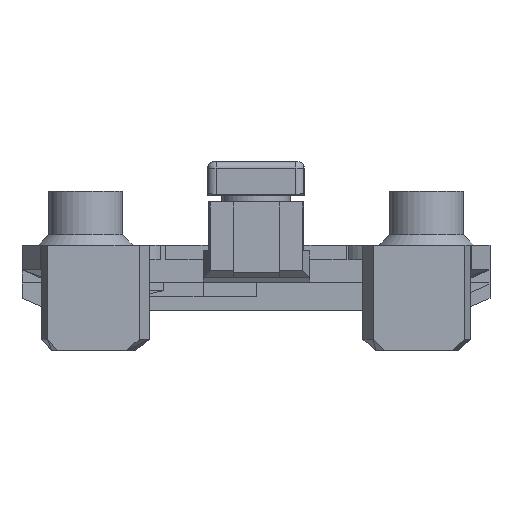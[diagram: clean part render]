
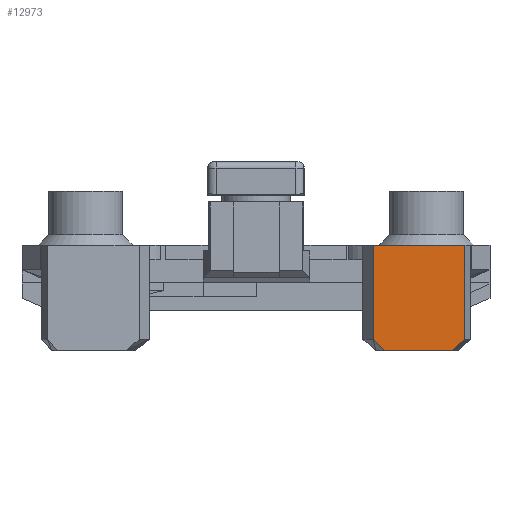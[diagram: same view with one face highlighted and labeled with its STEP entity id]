
A CAD part, left-side view. The second image highlights one B-rep face of the part: STEP entity #12973.
In plain terms, the highlighted planar face has unit normal (-1, 0, 0).
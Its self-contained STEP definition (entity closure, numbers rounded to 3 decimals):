
#764 = PLANE('',#765);
#765 = AXIS2_PLACEMENT_3D('',#766,#767,#768);
#766 = CARTESIAN_POINT('',(-13.263,0.004,7.4));
#767 = DIRECTION('',(0.,0.,1.));
#768 = DIRECTION('',(1.,0.,-0.));
#5528 = PLANE('',#5529);
#5529 = AXIS2_PLACEMENT_3D('',#5530,#5531,#5532);
#5530 = CARTESIAN_POINT('',(-18.527,-8.261,6.4));
#5531 = DIRECTION('',(-0.56,0.829,0.));
#5532 = DIRECTION('',(0.829,0.56,-0.));
#5673 = VERTEX_POINT('',#5674);
#5674 = CARTESIAN_POINT('',(-18.527,-8.261,7.4));
#5695 = EDGE_CURVE('',#5696,#5673,#5698,.T.);
#5696 = VERTEX_POINT('',#5697);
#5697 = CARTESIAN_POINT('',(-18.527,-14.707,7.4));
#5698 = SURFACE_CURVE('',#5699,(#5703,#5710),.PCURVE_S1.);
#5699 = LINE('',#5700,#5701);
#5700 = CARTESIAN_POINT('',(-18.527,-19.765,7.4));
#5701 = VECTOR('',#5702,1.);
#5702 = DIRECTION('',(0.,1.,0.));
#5703 = PCURVE('',#764,#5704);
#5704 = DEFINITIONAL_REPRESENTATION('',(#5705),#5709);
#5705 = LINE('',#5706,#5707);
#5706 = CARTESIAN_POINT('',(-5.264,-19.77));
#5707 = VECTOR('',#5708,1.);
#5708 = DIRECTION('',(0.,1.));
#5709 = ( GEOMETRIC_REPRESENTATION_CONTEXT(2) 
PARAMETRIC_REPRESENTATION_CONTEXT() REPRESENTATION_CONTEXT('2D SPACE',''
  ) );
#5710 = PCURVE('',#5711,#5716);
#5711 = PLANE('',#5712);
#5712 = AXIS2_PLACEMENT_3D('',#5713,#5714,#5715);
#5713 = CARTESIAN_POINT('',(-18.527,-14.707,6.4));
#5714 = DIRECTION('',(-1.,0.,0.));
#5715 = DIRECTION('',(0.,1.,0.));
#5716 = DEFINITIONAL_REPRESENTATION('',(#5717),#5721);
#5717 = LINE('',#5718,#5719);
#5718 = CARTESIAN_POINT('',(-5.058,-1.));
#5719 = VECTOR('',#5720,1.);
#5720 = DIRECTION('',(1.,0.));
#5721 = ( GEOMETRIC_REPRESENTATION_CONTEXT(2) 
PARAMETRIC_REPRESENTATION_CONTEXT() REPRESENTATION_CONTEXT('2D SPACE',''
  ) );
#5739 = PLANE('',#5740);
#5740 = AXIS2_PLACEMENT_3D('',#5741,#5742,#5743);
#5741 = CARTESIAN_POINT('',(-17.441,-15.119,6.4));
#5742 = DIRECTION('',(-0.355,-0.935,0.));
#5743 = DIRECTION('',(-0.935,0.355,0.));
#9415 = PLANE('',#9416);
#9416 = AXIS2_PLACEMENT_3D('',#9417,#9418,#9419);
#9417 = CARTESIAN_POINT('',(-16.37,-9.793,0.));
#9418 = DIRECTION('',(-0.,-0.,-1.));
#9419 = DIRECTION('',(-1.,0.,0.));
#12925 = VERTEX_POINT('',#12926);
#12926 = CARTESIAN_POINT('',(-18.527,-8.261,
    0.778));
#12952 = EDGE_CURVE('',#5673,#12925,#12953,.T.);
#12953 = SURFACE_CURVE('',#12954,(#12958,#12965),.PCURVE_S1.);
#12954 = LINE('',#12955,#12956);
#12955 = CARTESIAN_POINT('',(-18.527,-8.261,7.4));
#12956 = VECTOR('',#12957,1.);
#12957 = DIRECTION('',(0.,0.,-1.));
#12958 = PCURVE('',#5528,#12959);
#12959 = DEFINITIONAL_REPRESENTATION('',(#12960),#12964);
#12960 = LINE('',#12961,#12962);
#12961 = CARTESIAN_POINT('',(0.,-1.));
#12962 = VECTOR('',#12963,1.);
#12963 = DIRECTION('',(0.,1.));
#12964 = ( GEOMETRIC_REPRESENTATION_CONTEXT(2) 
PARAMETRIC_REPRESENTATION_CONTEXT() REPRESENTATION_CONTEXT('2D SPACE',''
  ) );
#12965 = PCURVE('',#5711,#12966);
#12966 = DEFINITIONAL_REPRESENTATION('',(#12967),#12971);
#12967 = LINE('',#12968,#12969);
#12968 = CARTESIAN_POINT('',(6.446,-1.));
#12969 = VECTOR('',#12970,1.);
#12970 = DIRECTION('',(0.,1.));
#12971 = ( GEOMETRIC_REPRESENTATION_CONTEXT(2) 
PARAMETRIC_REPRESENTATION_CONTEXT() REPRESENTATION_CONTEXT('2D SPACE',''
  ) );
#12973 = ADVANCED_FACE('',(#12974),#5711,.T.);
#12974 = FACE_BOUND('',#12975,.T.);
#12975 = EDGE_LOOP('',(#12976,#12977,#13005,#13028,#13056,#13077));
#12976 = ORIENTED_EDGE('',*,*,#12952,.T.);
#12977 = ORIENTED_EDGE('',*,*,#12978,.T.);
#12978 = EDGE_CURVE('',#12925,#12979,#12981,.T.);
#12979 = VERTEX_POINT('',#12980);
#12980 = CARTESIAN_POINT('',(-18.527,-9.087,0.));
#12981 = SURFACE_CURVE('',#12982,(#12986,#12993),.PCURVE_S1.);
#12982 = LINE('',#12983,#12984);
#12983 = CARTESIAN_POINT('',(-18.527,-8.261,
    0.778));
#12984 = VECTOR('',#12985,1.);
#12985 = DIRECTION('',(0.,-0.728,-0.686));
#12986 = PCURVE('',#5711,#12987);
#12987 = DEFINITIONAL_REPRESENTATION('',(#12988),#12992);
#12988 = LINE('',#12989,#12990);
#12989 = CARTESIAN_POINT('',(6.446,5.622));
#12990 = VECTOR('',#12991,1.);
#12991 = DIRECTION('',(-0.728,0.686));
#12992 = ( GEOMETRIC_REPRESENTATION_CONTEXT(2) 
PARAMETRIC_REPRESENTATION_CONTEXT() REPRESENTATION_CONTEXT('2D SPACE',''
  ) );
#12993 = PCURVE('',#12994,#12999);
#12994 = PLANE('',#12995);
#12995 = AXIS2_PLACEMENT_3D('',#12996,#12997,#12998);
#12996 = CARTESIAN_POINT('',(-18.148,-8.584,
    0.257));
#12997 = DIRECTION('',(-0.384,0.633,-0.672));
#12998 = DIRECTION('',(0.,-0.728,
    -0.686));
#12999 = DEFINITIONAL_REPRESENTATION('',(#13000),#13004);
#13000 = LINE('',#13001,#13002);
#13001 = CARTESIAN_POINT('',(-0.592,0.41));
#13002 = VECTOR('',#13003,1.);
#13003 = DIRECTION('',(1.,0.));
#13004 = ( GEOMETRIC_REPRESENTATION_CONTEXT(2) 
PARAMETRIC_REPRESENTATION_CONTEXT() REPRESENTATION_CONTEXT('2D SPACE',''
  ) );
#13005 = ORIENTED_EDGE('',*,*,#13006,.F.);
#13006 = EDGE_CURVE('',#13007,#12979,#13009,.T.);
#13007 = VERTEX_POINT('',#13008);
#13008 = CARTESIAN_POINT('',(-18.527,-13.847,0.));
#13009 = SURFACE_CURVE('',#13010,(#13014,#13021),.PCURVE_S1.);
#13010 = LINE('',#13011,#13012);
#13011 = CARTESIAN_POINT('',(-18.527,-13.847,0.));
#13012 = VECTOR('',#13013,1.);
#13013 = DIRECTION('',(0.,1.,0.));
#13014 = PCURVE('',#5711,#13015);
#13015 = DEFINITIONAL_REPRESENTATION('',(#13016),#13020);
#13016 = LINE('',#13017,#13018);
#13017 = CARTESIAN_POINT('',(0.86,6.4));
#13018 = VECTOR('',#13019,1.);
#13019 = DIRECTION('',(1.,0.));
#13020 = ( GEOMETRIC_REPRESENTATION_CONTEXT(2) 
PARAMETRIC_REPRESENTATION_CONTEXT() REPRESENTATION_CONTEXT('2D SPACE',''
  ) );
#13021 = PCURVE('',#9415,#13022);
#13022 = DEFINITIONAL_REPRESENTATION('',(#13023),#13027);
#13023 = LINE('',#13024,#13025);
#13024 = CARTESIAN_POINT('',(2.157,-4.054));
#13025 = VECTOR('',#13026,1.);
#13026 = DIRECTION('',(0.,1.));
#13027 = ( GEOMETRIC_REPRESENTATION_CONTEXT(2) 
PARAMETRIC_REPRESENTATION_CONTEXT() REPRESENTATION_CONTEXT('2D SPACE',''
  ) );
#13028 = ORIENTED_EDGE('',*,*,#13029,.T.);
#13029 = EDGE_CURVE('',#13007,#13030,#13032,.T.);
#13030 = VERTEX_POINT('',#13031);
#13031 = CARTESIAN_POINT('',(-18.527,-14.707,
    0.778));
#13032 = SURFACE_CURVE('',#13033,(#13037,#13044),.PCURVE_S1.);
#13033 = LINE('',#13034,#13035);
#13034 = CARTESIAN_POINT('',(-18.527,-13.847,0.));
#13035 = VECTOR('',#13036,1.);
#13036 = DIRECTION('',(0.,-0.742,0.671));
#13037 = PCURVE('',#5711,#13038);
#13038 = DEFINITIONAL_REPRESENTATION('',(#13039),#13043);
#13039 = LINE('',#13040,#13041);
#13040 = CARTESIAN_POINT('',(0.86,6.4));
#13041 = VECTOR('',#13042,1.);
#13042 = DIRECTION('',(-0.742,-0.671));
#13043 = ( GEOMETRIC_REPRESENTATION_CONTEXT(2) 
PARAMETRIC_REPRESENTATION_CONTEXT() REPRESENTATION_CONTEXT('2D SPACE',''
  ) );
#13044 = PCURVE('',#13045,#13050);
#13045 = PLANE('',#13046);
#13046 = AXIS2_PLACEMENT_3D('',#13047,#13048,#13049);
#13047 = CARTESIAN_POINT('',(-18.135,-14.546,
    0.497));
#13048 = DIRECTION('',(-0.247,-0.65,-0.719)
  );
#13049 = DIRECTION('',(0.,-0.742,
    0.671));
#13050 = DEFINITIONAL_REPRESENTATION('',(#13051),#13055);
#13051 = LINE('',#13052,#13053);
#13052 = CARTESIAN_POINT('',(-0.852,0.404));
#13053 = VECTOR('',#13054,1.);
#13054 = DIRECTION('',(1.,0.));
#13055 = ( GEOMETRIC_REPRESENTATION_CONTEXT(2) 
PARAMETRIC_REPRESENTATION_CONTEXT() REPRESENTATION_CONTEXT('2D SPACE',''
  ) );
#13056 = ORIENTED_EDGE('',*,*,#13057,.F.);
#13057 = EDGE_CURVE('',#5696,#13030,#13058,.T.);
#13058 = SURFACE_CURVE('',#13059,(#13063,#13070),.PCURVE_S1.);
#13059 = LINE('',#13060,#13061);
#13060 = CARTESIAN_POINT('',(-18.527,-14.707,7.4));
#13061 = VECTOR('',#13062,1.);
#13062 = DIRECTION('',(0.,0.,-1.));
#13063 = PCURVE('',#5711,#13064);
#13064 = DEFINITIONAL_REPRESENTATION('',(#13065),#13069);
#13065 = LINE('',#13066,#13067);
#13066 = CARTESIAN_POINT('',(0.,-1.));
#13067 = VECTOR('',#13068,1.);
#13068 = DIRECTION('',(0.,1.));
#13069 = ( GEOMETRIC_REPRESENTATION_CONTEXT(2) 
PARAMETRIC_REPRESENTATION_CONTEXT() REPRESENTATION_CONTEXT('2D SPACE',''
  ) );
#13070 = PCURVE('',#5739,#13071);
#13071 = DEFINITIONAL_REPRESENTATION('',(#13072),#13076);
#13072 = LINE('',#13073,#13074);
#13073 = CARTESIAN_POINT('',(1.162,-1.));
#13074 = VECTOR('',#13075,1.);
#13075 = DIRECTION('',(0.,1.));
#13076 = ( GEOMETRIC_REPRESENTATION_CONTEXT(2) 
PARAMETRIC_REPRESENTATION_CONTEXT() REPRESENTATION_CONTEXT('2D SPACE',''
  ) );
#13077 = ORIENTED_EDGE('',*,*,#5695,.T.);
